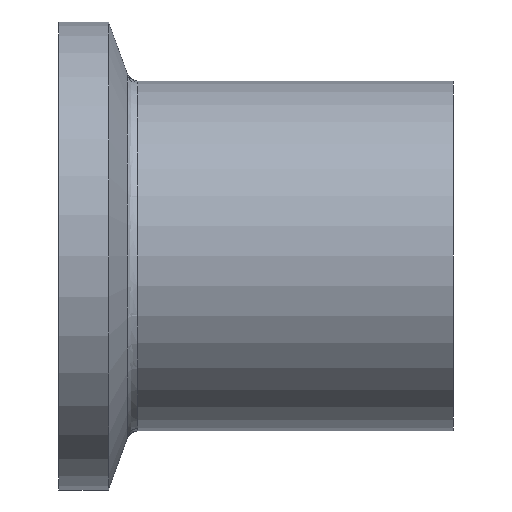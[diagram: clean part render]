
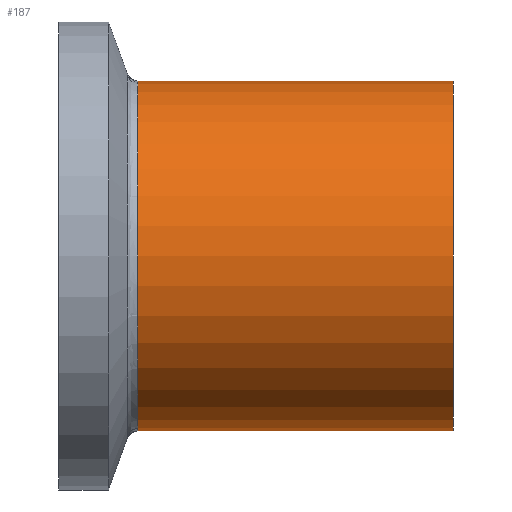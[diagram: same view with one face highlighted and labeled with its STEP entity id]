
A CAD part, front view. The second image highlights one B-rep face of the part: STEP entity #187.
In plain terms, the highlighted cylindrical face has radius 12.7 mm (diameter 25.4 mm), a partial arc.
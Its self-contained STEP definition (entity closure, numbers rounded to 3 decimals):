
#35 = DIRECTION ( 'NONE',  ( 0., 0., 1. ) ) ;
#46 = LINE ( 'NONE', #444, #512 ) ;
#73 = ORIENTED_EDGE ( 'NONE', *, *, #450, .F. ) ;
#85 = AXIS2_PLACEMENT_3D ( 'NONE', #272, #102, #467 ) ;
#100 = DIRECTION ( 'NONE',  ( 1., 0., 0. ) ) ;
#102 = DIRECTION ( 'NONE',  ( -1., 0., 0. ) ) ;
#121 = AXIS2_PLACEMENT_3D ( 'NONE', #716, #372, #35 ) ;
#122 = VERTEX_POINT ( 'NONE', #541 ) ;
#161 = ORIENTED_EDGE ( 'NONE', *, *, #559, .T. ) ;
#169 = ORIENTED_EDGE ( 'NONE', *, *, #525, .T. ) ;
#187 = ADVANCED_FACE ( 'NONE', ( #539 ), #439, .T. ) ;
#197 = VECTOR ( 'NONE', #637, 1000. ) ;
#215 = DIRECTION ( 'NONE',  ( 0., 0., 1. ) ) ;
#221 = VERTEX_POINT ( 'NONE', #563 ) ;
#240 = EDGE_LOOP ( 'NONE', ( #73, #169, #296, #161 ) ) ;
#244 = CIRCLE ( 'NONE', #85, 12.7 ) ;
#246 = AXIS2_PLACEMENT_3D ( 'NONE', #523, #100, #215 ) ;
#269 = CIRCLE ( 'NONE', #246, 12.7 ) ;
#272 = CARTESIAN_POINT ( 'NONE',  ( 28.7, 0., 0. ) ) ;
#276 = EDGE_CURVE ( 'NONE', #122, #636, #46, .T. ) ;
#296 = ORIENTED_EDGE ( 'NONE', *, *, #276, .T. ) ;
#313 = LINE ( 'NONE', #530, #197 ) ;
#372 = DIRECTION ( 'NONE',  ( -1., 0., 0. ) ) ;
#381 = VERTEX_POINT ( 'NONE', #575 ) ;
#439 = CYLINDRICAL_SURFACE ( 'NONE', #121, 12.7 ) ;
#444 = CARTESIAN_POINT ( 'NONE',  ( -9.765, 0., 12.7 ) ) ;
#450 = EDGE_CURVE ( 'NONE', #221, #381, #313, .T. ) ;
#467 = DIRECTION ( 'NONE',  ( 0., 0., 1. ) ) ;
#501 = DIRECTION ( 'NONE',  ( -1., 0., 0. ) ) ;
#512 = VECTOR ( 'NONE', #501, 1000. ) ;
#523 = CARTESIAN_POINT ( 'NONE',  ( 5.751, 0., 0. ) ) ;
#525 = EDGE_CURVE ( 'NONE', #221, #122, #244, .T. ) ;
#530 = CARTESIAN_POINT ( 'NONE',  ( -9.765, 0., -12.7 ) ) ;
#539 = FACE_OUTER_BOUND ( 'NONE', #240, .T. ) ;
#541 = CARTESIAN_POINT ( 'NONE',  ( 28.7, 0., 12.7 ) ) ;
#559 = EDGE_CURVE ( 'NONE', #636, #381, #269, .T. ) ;
#563 = CARTESIAN_POINT ( 'NONE',  ( 28.7, 0., -12.7 ) ) ;
#575 = CARTESIAN_POINT ( 'NONE',  ( 5.751, 0., -12.7 ) ) ;
#636 = VERTEX_POINT ( 'NONE', #641 ) ;
#637 = DIRECTION ( 'NONE',  ( -1., 0., 0. ) ) ;
#641 = CARTESIAN_POINT ( 'NONE',  ( 5.751, 0., 12.7 ) ) ;
#716 = CARTESIAN_POINT ( 'NONE',  ( -9.765, 0., 0. ) ) ;
